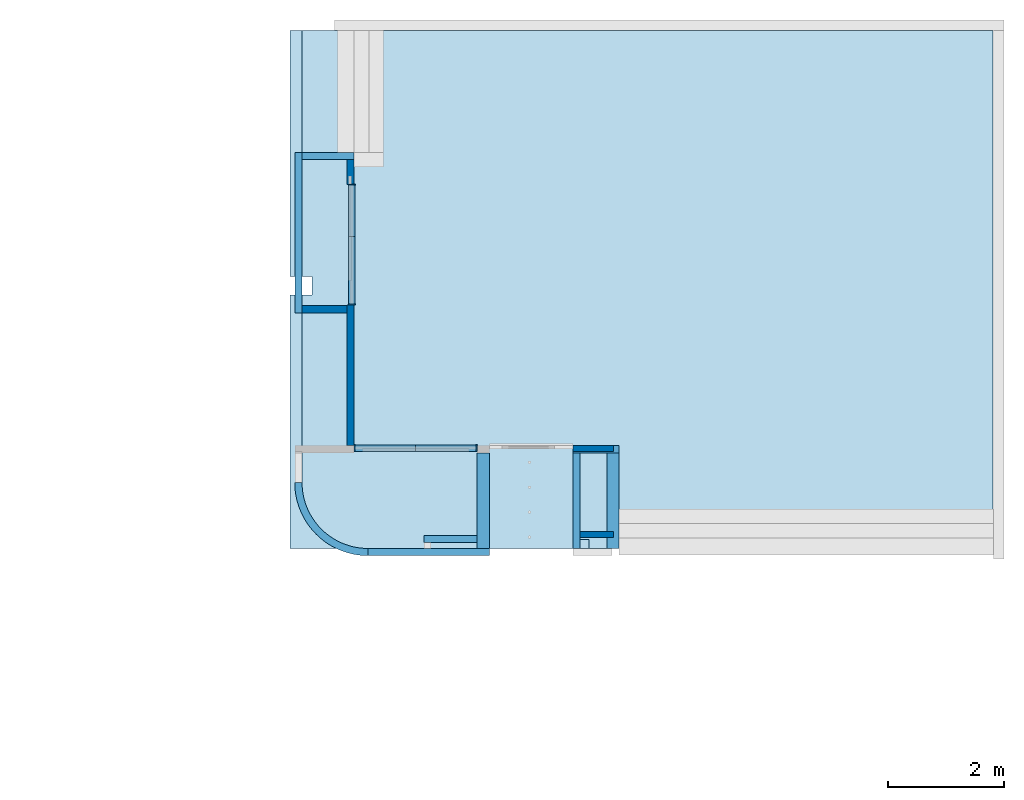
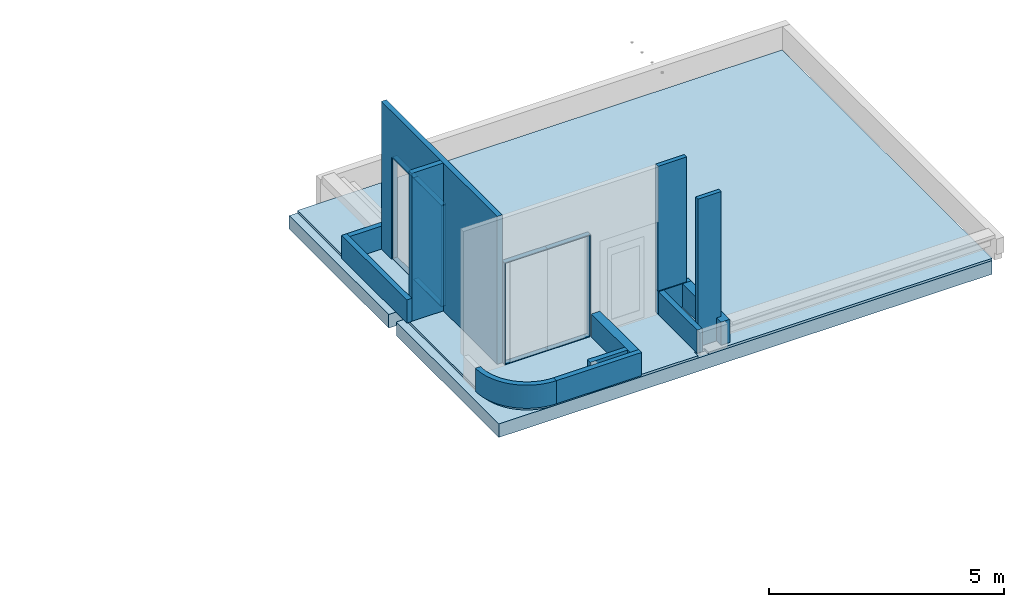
# One storey, part 1 of 6: 13 walls, 12 members, 2 slabs, 1 opening, 2 elements without a shape of their own.
"""IFC2X3 building model written with IfcOpenShell, lengths in millimetres."""

from ifc_helpers import new_model, entity, si_unit, converted_unit, derived_unit, direction, frame, frame_2d, origin, origin_2d_with_axis, place, context, subcontext, project, spatial, polyline, circle_curve, parameter, trimmed, segment, composite_curve, rectangle, outline, extrude, source, transform, mapped, material, layer, layer_set, layer_usage, type_object, type_shapes, element, aggregate, save


model = new_model("IFC2X3")

# Units and contexts
model_context = context("Model", 3, precision=0.01, world=origin(), true_north=direction((6.123031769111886e-17, 1.0)))
body_context = subcontext(model_context, "Body", "Model", "MODEL_VIEW")
ifc_project = project(units=[si_unit("LENGTHUNIT", "METRE", prefix="MILLI"), si_unit("AREAUNIT", "SQUARE_METRE"), si_unit("VOLUMEUNIT", "CUBIC_METRE"), converted_unit("PLANEANGLEUNIT", "DEGREE", entity("IfcRatioMeasure", 0.017453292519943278), si_unit("PLANEANGLEUNIT", "RADIAN"), dimensions=[0, 0, 0, 0, 0, 0, 0]), si_unit("MASSUNIT", "GRAM", prefix="KILO"), derived_unit("MASSDENSITYUNIT", [(si_unit("MASSUNIT", "GRAM", prefix="KILO"), 1), (si_unit("LENGTHUNIT", "METRE"), -3)]), derived_unit("IONCONCENTRATIONUNIT", [(si_unit("MASSUNIT", "GRAM", prefix="KILO"), 1), (si_unit("LENGTHUNIT", "METRE"), -3)]), derived_unit("MOMENTOFINERTIAUNIT", [(si_unit("LENGTHUNIT", "METRE"), 4)]), si_unit("TIMEUNIT", "SECOND"), si_unit("FREQUENCYUNIT", "HERTZ"), si_unit("THERMODYNAMICTEMPERATUREUNIT", "DEGREE_CELSIUS"), derived_unit("THERMALTRANSMITTANCEUNIT", [(si_unit("MASSUNIT", "GRAM", prefix="KILO"), 1), (si_unit("THERMODYNAMICTEMPERATUREUNIT", "KELVIN"), -1), (si_unit("TIMEUNIT", "SECOND"), -3)]), derived_unit("THERMALCONDUCTANCEUNIT", [(si_unit("MASSUNIT", "GRAM", prefix="KILO"), 1), (si_unit("THERMODYNAMICTEMPERATUREUNIT", "KELVIN"), -1), (si_unit("TIMEUNIT", "SECOND"), -3), (si_unit("LENGTHUNIT", "METRE"), 1)]), derived_unit("VOLUMETRICFLOWRATEUNIT", [(si_unit("LENGTHUNIT", "METRE"), 3), (si_unit("TIMEUNIT", "SECOND"), -1)]), derived_unit("MASSFLOWRATEUNIT", [(si_unit("MASSUNIT", "GRAM", prefix="KILO"), 1), (si_unit("TIMEUNIT", "SECOND"), -1)]), derived_unit("ROTATIONALFREQUENCYUNIT", [(si_unit("TIMEUNIT", "SECOND"), -1)]), si_unit("ELECTRICCURRENTUNIT", "AMPERE"), si_unit("ELECTRICVOLTAGEUNIT", "VOLT"), si_unit("POWERUNIT", "WATT"), si_unit("FORCEUNIT", "NEWTON", prefix="KILO"), si_unit("ILLUMINANCEUNIT", "LUX"), si_unit("LUMINOUSFLUXUNIT", "LUMEN"), si_unit("LUMINOUSINTENSITYUNIT", "CANDELA"), derived_unit("USERDEFINED", [(si_unit("MASSUNIT", "GRAM", prefix="KILO"), -1), (si_unit("LENGTHUNIT", "METRE"), -2), (si_unit("TIMEUNIT", "SECOND"), 3), (si_unit("LUMINOUSFLUXUNIT", "LUMEN"), 1)]), derived_unit("USERDEFINED", [(si_unit("MASSUNIT", "GRAM", prefix="KILO"), 1), (si_unit("TIMEUNIT", "SECOND"), -3), (si_unit("LENGTHUNIT", "METRE"), 3), (si_unit("ELECTRICCURRENTUNIT", "AMPERE"), -2)]), derived_unit("SOUNDPOWERUNIT", [(si_unit("MASSUNIT", "GRAM", prefix="KILO"), 1), (si_unit("TIMEUNIT", "SECOND"), -3), (si_unit("LENGTHUNIT", "METRE"), 2)]), derived_unit("SOUNDPRESSUREUNIT", [(si_unit("MASSUNIT", "GRAM", prefix="KILO"), 1), (si_unit("LENGTHUNIT", "METRE"), -1), (si_unit("TIMEUNIT", "SECOND"), -2)]), derived_unit("LINEARVELOCITYUNIT", [(si_unit("LENGTHUNIT", "METRE"), 1), (si_unit("TIMEUNIT", "SECOND"), -1)]), si_unit("PRESSUREUNIT", "PASCAL"), derived_unit("USERDEFINED", [(si_unit("MASSUNIT", "GRAM", prefix="KILO"), 1), (si_unit("LENGTHUNIT", "METRE"), -2), (si_unit("TIMEUNIT", "SECOND"), -2)]), derived_unit("LINEARFORCEUNIT", [(si_unit("MASSUNIT", "GRAM", prefix="KILO"), 1), (si_unit("TIMEUNIT", "SECOND"), -2)]), derived_unit("PLANARFORCEUNIT", [(si_unit("MASSUNIT", "GRAM", prefix="KILO"), 1), (si_unit("LENGTHUNIT", "METRE"), -1), (si_unit("TIMEUNIT", "SECOND"), -2)]), derived_unit("SPECIFICHEATCAPACITYUNIT", [(si_unit("THERMODYNAMICTEMPERATUREUNIT", "KELVIN"), -1), (si_unit("LENGTHUNIT", "METRE"), 2), (si_unit("TIMEUNIT", "SECOND"), -2)]), derived_unit("HEATINGVALUEUNIT", [(si_unit("LENGTHUNIT", "METRE"), 2), (si_unit("TIMEUNIT", "SECOND"), -2)]), derived_unit("VAPORPERMEABILITYUNIT", [(si_unit("LENGTHUNIT", "METRE"), -1), (si_unit("TIMEUNIT", "SECOND"), 1)]), derived_unit("DYNAMICVISCOSITYUNIT", [(si_unit("MASSUNIT", "GRAM", prefix="KILO"), 1), (si_unit("TIMEUNIT", "SECOND"), -1), (si_unit("LENGTHUNIT", "METRE"), -1)]), derived_unit("THERMALEXPANSIONCOEFFICIENTUNIT", [(si_unit("THERMODYNAMICTEMPERATUREUNIT", "KELVIN"), -1)]), derived_unit("MODULUSOFELASTICITYUNIT", [(si_unit("MASSUNIT", "GRAM", prefix="KILO"), 1), (si_unit("LENGTHUNIT", "METRE"), -1), (si_unit("TIMEUNIT", "SECOND"), -2)]), derived_unit("ISOTHERMALMOISTURECAPACITYUNIT", [(si_unit("LENGTHUNIT", "METRE"), 3), (si_unit("MASSUNIT", "GRAM", prefix="KILO"), -1)]), derived_unit("MOISTUREDIFFUSIVITYUNIT", [(si_unit("TIMEUNIT", "SECOND"), -1), (si_unit("LENGTHUNIT", "METRE"), 2)])], contexts=[model_context])

# Site, building, storey
site_placement = place(None, frame((0.0, 300.0, 0.0)))
site = spatial("IfcSite", under=ifc_project, at=site_placement, Name="<Kadastrale nummers>", CompositionType="ELEMENT")
building_placement = place(site_placement, origin())
building = spatial("IfcBuilding", under=site, at=building_placement, CompositionType="ELEMENT")
storey_placement = place(building_placement, frame((0.0, 0.0, -600.0)))
storey = spatial("IfcBuildingStorey", under=building, at=storey_placement, Name="-1 Speelvloer", CompositionType="ELEMENT", Elevation=-599.9999999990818)

# Curtain wall, members
curtain_wall_type_1 = type_object("IfcCurtainWallType", Name="Curtain Wall:Merk H22", PredefinedType="NOTDEFINED")
curtain_wall_1_placement = place(storey_placement, frame((0.0, 0.0, 600.0)))
curtain_wall_1 = element("IfcCurtainWall", 1, at=curtain_wall_1_placement, inside=storey, type_object=curtain_wall_type_1, Name="Curtain Wall:Merk H22", ObjectType="Curtain Wall:Merk H22")
ifc_material_1 = material(Name="ISR_Kunststof_grijs")
member_type_1 = type_object("IfcMemberType", Name="Rectangular Mullion:31_CWM_020x114", PredefinedType="MULLION", material=ifc_material_1)
shared_shape_1 = source(origin(), body_context, "Body", "SweptSolid", [
    extrude(rectangle(XDim=113.99999999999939, YDim=20.0, at=origin_2d_with_axis()), frame((-10.0, 57.0, -900.0), z_axis=(0.0, 0.0, 1.0), x_axis=(0.0, -1.0, 0.0)), (0.0, 0.0, 1.0), 900.0000000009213),
])
type_shapes(member_type_1, [shared_shape_1])
member_1_placement = place(curtain_wall_1_placement, frame((37386.03993788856, 47050.0, 2050.0), z_axis=(0.0, 1.0, 0.0), x_axis=(0.0, 0.0, 1.0)))
member_1 = element("IfcMember", 2, at=member_1_placement, type_object=member_type_1, material=ifc_material_1, Name="Rectangular Mullion:31_CWM_020x114", ObjectType="Rectangular Mullion:31_CWM_020x114", context=body_context, shape_type="MappedRepresentation", body=[
    mapped(shared_shape_1, transform((0.0, 0.0, 0.0), scale=1.0)),
])
member_type_2 = type_object("IfcMemberType", Name="Rectangular Mullion:31_CWM_020x114", PredefinedType="MULLION", material=ifc_material_1)
shared_shape_2 = source(origin(), body_context, "Body", "SweptSolid", [
    extrude(rectangle(XDim=113.99999999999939, YDim=20.0, at=origin_2d_with_axis()), frame((-10.0, 57.0, -1180.0), z_axis=(0.0, 0.0, 1.0), x_axis=(0.0, -1.0, 0.0)), (0.0, 0.0, 1.0), 1180.0000000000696),
])
type_shapes(member_type_2, [shared_shape_2])
member_2_placement = place(curtain_wall_1_placement, frame((37386.03993788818, 44970.0, -600.0), z_axis=(0.0, -1.0, 0.0), x_axis=(0.0, 0.0, -1.0)))
member_2 = element("IfcMember", 3, at=member_2_placement, type_object=member_type_2, material=ifc_material_1, Name="Rectangular Mullion:31_CWM_020x114", ObjectType="Rectangular Mullion:31_CWM_020x114", context=body_context, shape_type="MappedRepresentation", body=[
    mapped(shared_shape_2, transform((0.0, 0.0, 0.0), scale=1.0)),
])
member_type_3 = type_object("IfcMemberType", Name="Rectangular Mullion:31_CWM_020x114", PredefinedType="MULLION", material=ifc_material_1)
shared_shape_3 = source(origin(), body_context, "Body", "SweptSolid", [
    extrude(rectangle(XDim=113.99999999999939, YDim=20.0, at=origin_2d_with_axis()), frame((-10.0, 57.0, -2610.0), z_axis=(0.0, 0.0, 1.0), x_axis=(0.0, -1.0, 0.0)), (0.0, 0.0, 1.0), 2610.0000000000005),
])
type_shapes(member_type_3, [shared_shape_3])
member_3_placement = place(curtain_wall_1_placement, frame((37386.03993788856, 47050.0, -580.0), z_axis=(0.0, 0.0, -1.0), x_axis=(0.0, 1.0, 0.0)))
member_3 = element("IfcMember", 4, at=member_3_placement, type_object=member_type_3, material=ifc_material_1, Name="Rectangular Mullion:31_CWM_020x114", ObjectType="Rectangular Mullion:31_CWM_020x114", context=body_context, shape_type="MappedRepresentation", body=[
    mapped(shared_shape_3, transform((0.0, 0.0, 0.0), scale=1.0)),
])
member_type_4 = type_object("IfcMemberType", Name="Rectangular Mullion:31_CWM_020x114", PredefinedType="MULLION", material=ifc_material_1)
shared_shape_4 = source(origin(), body_context, "Body", "SweptSolid", [
    extrude(rectangle(XDim=113.99999999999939, YDim=20.0, at=origin_2d_with_axis()), frame((-10.0, 57.0, -2610.0), z_axis=(0.0, 0.0, 1.0), x_axis=(0.0, -1.0, 0.0)), (0.0, 0.0, 1.0), 2610.0),
])
type_shapes(member_type_4, [shared_shape_4])
member_4_placement = place(curtain_wall_1_placement, frame((37386.03993788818, 44970.0, 2030.0), z_axis=(0.0, 0.0, 1.0), x_axis=(0.0, -1.0, 0.0)))
member_4 = element("IfcMember", 5, at=member_4_placement, type_object=member_type_4, material=ifc_material_1, Name="Rectangular Mullion:31_CWM_020x114", ObjectType="Rectangular Mullion:31_CWM_020x114", context=body_context, shape_type="MappedRepresentation", body=[
    mapped(shared_shape_4, transform((0.0, 0.0, 0.0), scale=1.0)),
])
member_type_5 = type_object("IfcMemberType", Name="Rectangular Mullion:31_CWM_020x114", PredefinedType="MULLION", material=ifc_material_1)
shared_shape_5 = source(origin(), body_context, "Body", "SweptSolid", [
    extrude(rectangle(XDim=113.99999999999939, YDim=20.0, at=origin_2d_with_axis()), frame((-10.0, 57.0, -1180.0), z_axis=(0.0, 0.0, 1.0), x_axis=(0.0, -1.0, 0.0)), (0.0, 0.0, 1.0), 1180.0000000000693),
])
type_shapes(member_type_5, [shared_shape_5])
member_5_placement = place(curtain_wall_1_placement, frame((37386.039937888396, 46150.0, 2050.0), z_axis=(0.0, 1.0, 0.0), x_axis=(0.0, 0.0, 1.0)))
member_5 = element("IfcMember", 6, at=member_5_placement, type_object=member_type_5, material=ifc_material_1, Name="Rectangular Mullion:31_CWM_020x114", ObjectType="Rectangular Mullion:31_CWM_020x114", context=body_context, shape_type="MappedRepresentation", body=[
    mapped(shared_shape_5, transform((0.0, 0.0, 0.0), scale=1.0)),
])
member_type_6 = type_object("IfcMemberType", Name="Rectangular Mullion:31_CWM_020x114", PredefinedType="MULLION", material=ifc_material_1)
shared_shape_6 = source(origin(), body_context, "Body", "SweptSolid", [
    extrude(rectangle(XDim=113.99999999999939, YDim=20.0, at=origin_2d_with_axis()), frame((-10.0, 57.0, -900.0), z_axis=(0.0, 0.0, 1.0), x_axis=(0.0, -1.0, 0.0)), (0.0, 0.0, 1.0), 900.0000000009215),
])
type_shapes(member_type_6, [shared_shape_6])
member_6_placement = place(curtain_wall_1_placement, frame((37386.039937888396, 46150.0, -600.0), z_axis=(0.0, -1.0, 0.0), x_axis=(0.0, 0.0, -1.0)))
member_6 = element("IfcMember", 7, at=member_6_placement, type_object=member_type_6, material=ifc_material_1, Name="Rectangular Mullion:31_CWM_020x114", ObjectType="Rectangular Mullion:31_CWM_020x114", context=body_context, shape_type="MappedRepresentation", body=[
    mapped(shared_shape_6, transform((0.0, 0.0, 0.0), scale=1.0)),
])
aggregate(curtain_wall_1, [member_1, member_2, member_3, member_4, member_5, member_6])

curtain_wall_type_2 = type_object("IfcCurtainWallType", Name="Curtain Wall:Merk H23", PredefinedType="NOTDEFINED")
curtain_wall_2_placement = place(storey_placement, frame((0.0, 0.0, 600.0)))
curtain_wall_2 = element("IfcCurtainWall", 8, at=curtain_wall_2_placement, inside=storey, type_object=curtain_wall_type_2, Name="Curtain Wall:Merk H23", ObjectType="Curtain Wall:Merk H23")
member_type_7 = type_object("IfcMemberType", Name="Rectangular Mullion:31_CWM_020x114", PredefinedType="MULLION", material=ifc_material_1)
shared_shape_7 = source(origin(), body_context, "Body", "SweptSolid", [
    extrude(rectangle(XDim=113.99999999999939, YDim=20.0, at=origin_2d_with_axis()), frame((-10.0, -57.0, -1057.959848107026), z_axis=(0.0, 0.0, 1.0), x_axis=(0.0, -1.0, 0.0)), (0.0, 0.0, 1.0), 1057.9598481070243),
])
type_shapes(member_type_7, [shared_shape_7])
member_7_placement = place(curtain_wall_2_placement, frame((39599.99978599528, 42446.0, 2050.0), z_axis=(1.0, 0.0, 0.0), x_axis=(0.0, 0.0, 1.0)))
member_7 = element("IfcMember", 9, at=member_7_placement, type_object=member_type_7, material=ifc_material_1, Name="Rectangular Mullion:31_CWM_020x114", ObjectType="Rectangular Mullion:31_CWM_020x114", context=body_context, shape_type="MappedRepresentation", body=[
    mapped(shared_shape_7, transform((0.0, 0.0, 0.0), scale=1.0)),
])
member_type_8 = type_object("IfcMemberType", Name="Rectangular Mullion:31_CWM_020x114", PredefinedType="MULLION", material=ifc_material_1)
shared_shape_8 = source(origin(), body_context, "Body", "SweptSolid", [
    extrude(rectangle(XDim=113.99999999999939, YDim=20.0, at=origin_2d_with_axis()), frame((-10.0, -57.0, -1057.0), z_axis=(0.0, 0.0, 1.0), x_axis=(0.0, -1.0, 0.0)), (0.0, 0.0, 1.0), 1056.999999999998),
])
type_shapes(member_type_8, [shared_shape_8])
member_8_placement = place(curtain_wall_2_placement, frame((37485.03993788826, 42446.0, -600.0), z_axis=(-1.0, 0.0, 0.0), x_axis=(0.0, 0.0, -1.0)))
member_8 = element("IfcMember", 10, at=member_8_placement, type_object=member_type_8, material=ifc_material_1, Name="Rectangular Mullion:31_CWM_020x114", ObjectType="Rectangular Mullion:31_CWM_020x114", context=body_context, shape_type="MappedRepresentation", body=[
    mapped(shared_shape_8, transform((0.0, 0.0, 0.0), scale=1.0)),
])
member_type_9 = type_object("IfcMemberType", Name="Rectangular Mullion:31_CWM_020x114", PredefinedType="MULLION", material=ifc_material_1)
shared_shape_9 = source(origin(), body_context, "Body", "SweptSolid", [
    extrude(rectangle(XDim=113.99999999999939, YDim=20.0, at=origin_2d_with_axis()), frame((-10.0, -57.0, -2610.0), z_axis=(0.0, 0.0, 1.0), x_axis=(0.0, -1.0, 0.0)), (0.0, 0.0, 1.0), 2610.0000000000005),
])
type_shapes(member_type_9, [shared_shape_9])
member_9_placement = place(curtain_wall_2_placement, frame((39599.99978599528, 42446.0, -580.0), z_axis=(0.0, 0.0, -1.0), x_axis=(1.0, 0.0, 0.0)))
member_9 = element("IfcMember", 11, at=member_9_placement, type_object=member_type_9, material=ifc_material_1, Name="Rectangular Mullion:31_CWM_020x114", ObjectType="Rectangular Mullion:31_CWM_020x114", context=body_context, shape_type="MappedRepresentation", body=[
    mapped(shared_shape_9, transform((0.0, 0.0, 0.0), scale=1.0)),
])
member_type_10 = type_object("IfcMemberType", Name="Rectangular Mullion:31_CWM_020x114", PredefinedType="MULLION", material=ifc_material_1)
shared_shape_10 = source(origin(), body_context, "Body", "SweptSolid", [
    extrude(rectangle(XDim=113.99999999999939, YDim=20.0, at=origin_2d_with_axis()), frame((-10.0, -57.0, -2610.0), z_axis=(0.0, 0.0, 1.0), x_axis=(0.0, -1.0, 0.0)), (0.0, 0.0, 1.0), 2610.0),
])
type_shapes(member_type_10, [shared_shape_10])
member_10_placement = place(curtain_wall_2_placement, frame((37485.03993788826, 42446.0, 2030.0), z_axis=(0.0, 0.0, 1.0), x_axis=(-1.0, 0.0, 0.0)))
member_10 = element("IfcMember", 12, at=member_10_placement, type_object=member_type_10, material=ifc_material_1, Name="Rectangular Mullion:31_CWM_020x114", ObjectType="Rectangular Mullion:31_CWM_020x114", context=body_context, shape_type="MappedRepresentation", body=[
    mapped(shared_shape_10, transform((0.0, 0.0, 0.0), scale=1.0)),
])
member_type_11 = type_object("IfcMemberType", Name="Rectangular Mullion:31_CWM_020x114", PredefinedType="MULLION", material=ifc_material_1)
shared_shape_11 = source(origin(), body_context, "Body", "SweptSolid", [
    extrude(rectangle(XDim=113.99999999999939, YDim=20.0, at=origin_2d_with_axis()), frame((-10.0, -57.0, -1057.0), z_axis=(0.0, 0.0, 1.0), x_axis=(0.0, -1.0, 0.0)), (0.0, 0.0, 1.0), 1056.999999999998),
])
type_shapes(member_type_11, [shared_shape_11])
member_11_placement = place(curtain_wall_2_placement, frame((38542.03993788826, 42446.0, 2050.0), z_axis=(1.0, 0.0, 0.0), x_axis=(0.0, 0.0, 1.0)))
member_11 = element("IfcMember", 13, at=member_11_placement, type_object=member_type_11, material=ifc_material_1, Name="Rectangular Mullion:31_CWM_020x114", ObjectType="Rectangular Mullion:31_CWM_020x114", context=body_context, shape_type="MappedRepresentation", body=[
    mapped(shared_shape_11, transform((0.0, 0.0, 0.0), scale=1.0)),
])
member_type_12 = type_object("IfcMemberType", Name="Rectangular Mullion:31_CWM_020x114", PredefinedType="MULLION", material=ifc_material_1)
shared_shape_12 = source(origin(), body_context, "Body", "SweptSolid", [
    extrude(rectangle(XDim=113.99999999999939, YDim=20.0, at=origin_2d_with_axis()), frame((-10.0, -57.0, -1057.9598481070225), z_axis=(0.0, 0.0, 1.0), x_axis=(0.0, -1.0, 0.0)), (0.0, 0.0, 1.0), 1057.9598481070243),
])
type_shapes(member_type_12, [shared_shape_12])
member_12_placement = place(curtain_wall_2_placement, frame((38542.03993788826, 42446.0, -600.0), z_axis=(-1.0, 0.0, 0.0), x_axis=(0.0, 0.0, -1.0)))
member_12 = element("IfcMember", 14, at=member_12_placement, type_object=member_type_12, material=ifc_material_1, Name="Rectangular Mullion:31_CWM_020x114", ObjectType="Rectangular Mullion:31_CWM_020x114", context=body_context, shape_type="MappedRepresentation", body=[
    mapped(shared_shape_12, transform((0.0, 0.0, 0.0), scale=1.0)),
])
aggregate(curtain_wall_2, [member_7, member_8, member_9, member_10, member_11, member_12])

# Slabs
ifc_material_2 = material(Name="ISR_Beton ihwg")
ifc_layer_1 = layer(ifc_material_2, 60.0)
ifc_layer_set_1 = layer_set([ifc_layer_1], Name="Floor:23_Gewapende Druklaag")
ifc_layer_usage_1 = layer_usage(ifc_layer_set_1, "AXIS3", "POSITIVE", 0.0)
slab_type_1 = type_object("IfcSlabType", Name="Floor:23_Gewapende Druklaag", PredefinedType="FLOOR", material=ifc_layer_set_1)
slab_1_placement = place(storey_placement, origin())
element("IfcSlab", 15, at=slab_1_placement, inside=storey, type_object=slab_type_1, material=ifc_layer_usage_1, Name="Floor:23_Gewapende Druklaag", ObjectType="Floor:23_Gewapende Druklaag", PredefinedType="FLOOR", context=body_context, shape_type="SweptSolid", body=[
    extrude(outline(composite_curve([segment(polyline([(-3412.2957542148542, 1693.7501876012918), (-3412.295754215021, -1533.7503376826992)]), True, "CONTINUOUS"), segment(trimmed(circle_curve(frame_2d((-2274.795754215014, -1533.7503376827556), x_axis=(0.0, -1.0)), 1137.5000000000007), [parameter(270.0000000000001)], [parameter(0.0)], True, "PARAMETER"), True, "CONTINUOUS"), segment(polyline([(-2274.795754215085, -2671.2503376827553), (-197.33569210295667, -2671.250337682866)]), True, "CONTINUOUS"), segment(polyline([(-197.33569210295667, -2671.249812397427), (1272.664307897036, -2671.2498123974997)]), True, "CONTINUOUS"), segment(polyline([(1272.664307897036, -2671.2498123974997), (1272.6643078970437, -2516.2503376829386)]), True, "CONTINUOUS"), segment(polyline([(1272.6643078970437, -2516.2503376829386), (1532.6643078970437, -2516.2503376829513)]), True, "CONTINUOUS"), segment(polyline([(1532.6643078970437, -2516.2503376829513), (1532.664307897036, -2671.2498123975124)]), True, "CONTINUOUS"), segment(polyline([(1532.664307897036, -2671.2498123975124), (8492.66430789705, -2671.249812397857)]), True, "CONTINUOUS"), segment(polyline([(8492.66430789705, -2671.249812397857), (8492.664307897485, 6253.750187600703)]), True, "CONTINUOUS"), segment(polyline([(8492.664307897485, 6253.750187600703), (-3412.2957542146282, 6253.750187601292)]), True, "CONTINUOUS"), segment(polyline([(-3412.2957542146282, 6253.750187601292), (-3412.2957542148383, 2013.7501876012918)]), True, "CONTINUOUS"), segment(polyline([(-3412.2957542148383, 2013.7501876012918), (-3237.3356921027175, 2013.7501876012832)]), True, "CONTINUOUS"), segment(polyline([(-3237.3356921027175, 2013.7501876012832), (-3237.335692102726, 1693.7501876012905)]), True, "CONTINUOUS"), segment(polyline([(-3237.335692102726, 1693.7501876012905), (-3412.2957542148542, 1693.7501876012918)]), True, "CONTINUOUS")], self_intersect=False)), frame((39997.3356921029, 43446.24981239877, -70.0)), (0.0, 0.0, -1.0), 60.00000000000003),
])
ifc_material_3 = material(Name="ISR_Kanaalplaatvloer")
ifc_layer_2 = layer(ifc_material_3, 200.0)
ifc_material_4 = material(Name="ISR_Dak_isolatie(198)")
ifc_layer_3 = layer(ifc_material_4, 152.0)
ifc_layer_set_2 = layer_set([ifc_layer_2, ifc_layer_3], Name="Floor:23_Geisoleerde kanaalplaatvloer_200")
ifc_layer_usage_2 = layer_usage(ifc_layer_set_2, "AXIS3", "POSITIVE", 0.0)
slab_type_2 = type_object("IfcSlabType", Name="Floor:23_Geisoleerde kanaalplaatvloer_200", PredefinedType="FLOOR", material=ifc_layer_set_2)
slab_2_placement = place(storey_placement, origin())
element("IfcSlab", 16, at=slab_2_placement, inside=storey, type_object=slab_type_2, material=ifc_layer_usage_2, Name="Floor:23_Geisoleerde kanaalplaatvloer_200", ObjectType="Floor:23_Geisoleerde kanaalplaatvloer_200", PredefinedType="FLOOR", context=body_context, shape_type="SweptSolid", body=[
    extrude(outline(polyline([(-3122.480031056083, -127.50000000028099), (-3122.4800310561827, -4492.4999999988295), (8987.480031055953, -4492.499999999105), (8987.480031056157, 4427.49999999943), (-3122.480031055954, 4427.499999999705), (-3122.4800310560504, 192.49999999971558), (-2742.5199689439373, 192.49999999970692), (-2742.51996894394, -127.50000000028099), (-3122.480031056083, -127.50000000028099)])), frame((39502.51996894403, 45267.50000000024, -130.0)), (0.0, 0.0, -1.0), 352.0),
])

# Wall
ifc_material_5 = material(Name="ISR_Gips")
ifc_layer_4 = layer(ifc_material_5, 1.0)
ifc_material_6 = material(Name="ISR_Binnenwand")
ifc_layer_5 = layer(ifc_material_6, 123.0)
ifc_layer_6 = layer(ifc_material_5, 1.0)
ifc_layer_set_3 = layer_set([ifc_layer_4, ifc_layer_5, ifc_layer_6], Name="Basic Wall:22_DAT_binnenwand_125")
ifc_layer_usage_3 = layer_usage(ifc_layer_set_3, "AXIS2", "NEGATIVE", 62.50000000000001)
wall_type_1 = type_object("IfcWallType", Name="Basic Wall:22_DAT_binnenwand_125", PredefinedType="STANDARD", material=ifc_layer_set_3)
wall_1_placement = place(storey_placement, frame((36585.03993788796, 44897.4999999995, 0.0)))
element("IfcWallStandardCase", 17, at=wall_1_placement, inside=storey, type_object=wall_type_1, material=ifc_layer_usage_3, Name="Basic Wall:22_DAT_binnenwand_125", ObjectType="Basic Wall:22_DAT_binnenwand_125", context=body_context, shape_type="SweptSolid", body=[
    extrude(rectangle(XDim=775.0000000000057, YDim=125.00000000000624, at=frame_2d((387.50000000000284, 0.0), x_axis=(-1.0, 0.0))), origin(), (0.0, 0.0, 1.0), 3840.0000290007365),
])

# Wall, opening
wall_2_placement = place(storey_placement, frame((37422.53993788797, 47475.0, 0.0), z_axis=(0.0, 0.0, 1.0), x_axis=(0.0, -1.0, 0.0)))
wall_2 = element("IfcWallStandardCase", 18, at=wall_2_placement, inside=storey, type_object=wall_type_1, material=ifc_layer_usage_3, Name="Basic Wall:22_DAT_binnenwand_125", ObjectType="Basic Wall:22_DAT_binnenwand_125", context=body_context, shape_type="SweptSolid", body=[
    extrude(rectangle(XDim=4930.0000000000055, YDim=125.0000000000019, at=frame_2d((2465.0000000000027, -2.8599345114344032e-12), x_axis=(1.0, 0.0))), origin(), (0.0, 0.0, 1.0), 3840.0000290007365),
])
opening_placement = place(wall_2_placement, origin())
element("IfcOpeningElement", 19, at=opening_placement, cuts=wall_2, Name="Basic Wall:22_DAT_binnenwand_125", ObjectType="Opening", context=body_context, shape_type="SweptSolid", body=[
    extrude(rectangle(XDim=2649.9999999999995, YDim=2080.0000000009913, at=frame_2d((4.320099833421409e-12, 0.0), x_axis=(0.0, 1.0))), frame((1465.0, -214.90000000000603, 1325.0), z_axis=(0.0, 1.0, 0.0), x_axis=(-1.0, 0.0, 0.0)), (0.0, 0.0, 1.0), 429.8000000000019),
])

# Walls
wall_3_placement = place(storey_placement, frame((37722.539937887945, 40712.4994747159, 0.0)))
element("IfcWallStandardCase", 20, at=wall_3_placement, inside=storey, type_object=wall_type_1, material=ifc_layer_usage_3, Name="Basic Wall:22_DAT_binnenwand_125", ObjectType="Basic Wall:22_DAT_binnenwand_125", context=body_context, shape_type="SweptSolid", body=[
    extrude(rectangle(XDim=2091.459848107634, YDim=125.00000000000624, at=frame_2d((1045.729924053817, 0.0), x_axis=(-1.0, 0.0))), origin(), (0.0, 0.0, 1.0), 600.0000000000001),
])
wall_4_placement = place(storey_placement, frame((42050.0, 42482.499999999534, 0.0), z_axis=(0.0, 0.0, 1.0), x_axis=(-1.0, 0.0, 0.0)))
element("IfcWallStandardCase", 21, at=wall_4_placement, inside=storey, type_object=wall_type_1, material=ifc_layer_usage_3, Name="Basic Wall:22_DAT_binnenwand_125", ObjectType="Basic Wall:22_DAT_binnenwand_125", context=body_context, shape_type="SweptSolid", body=[
    extrude(rectangle(XDim=800.0, YDim=125.00000000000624, at=frame_2d((400.0, 0.0), x_axis=(-1.0, 0.0))), origin(), (0.0, 0.0, 1.0), 600.0000000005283),
])
wall_5_placement = place(storey_placement, frame((36522.53993788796, 41912.4994747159, 0.0)))
element("IfcWallStandardCase", 22, at=wall_5_placement, inside=storey, type_object=wall_type_1, material=ifc_layer_usage_3, Name="Basic Wall:22_DAT_binnenwand_125", ObjectType="Basic Wall:22_DAT_binnenwand_125", context=body_context, shape_type="SweptSolid", body=[
    extrude(outline(composite_curve([segment(trimmed(circle_curve(frame_2d((1200.0, 0.0), x_axis=(1.0, 0.0)), 1137.5), [parameter(180.00000000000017)], [parameter(269.9999999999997)], True, "PARAMETER"), False, "CONTINUOUS"), segment(polyline([(62.499999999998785, 0.0), (-62.499999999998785, 0.0)]), True, "CONTINUOUS"), segment(trimmed(circle_curve(frame_2d((1200.0, 0.0), x_axis=(1.0, 0.0)), 1262.5), [parameter(180.00000000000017)], [parameter(269.9999999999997)], True, "PARAMETER"), True, "CONTINUOUS"), segment(polyline([(1200.0, -1262.4999999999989), (1200.0, -1137.5000000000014)]), True, "CONTINUOUS")], self_intersect=False)), origin(), (0.0, 0.0, 1.0), 600.0000000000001),
])
wall_6_placement = place(storey_placement, frame((41312.500000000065, 40774.99947471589, 0.0), z_axis=(0.0, 0.0, 1.0), x_axis=(0.0, 1.0, 0.0)))
element("IfcWallStandardCase", 23, at=wall_6_placement, inside=storey, type_object=wall_type_1, material=ifc_layer_usage_3, Name="Basic Wall:22_DAT_binnenwand_125", ObjectType="Basic Wall:22_DAT_binnenwand_125", context=body_context, shape_type="SweptSolid", body=[
    extrude(rectangle(XDim=1645.0005252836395, YDim=125.00000000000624, at=frame_2d((822.5002626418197, 0.0), x_axis=(-1.0, 0.0))), origin(), (0.0, 0.0, 1.0), 600.0000000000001),
])
wall_7_placement = place(storey_placement, frame((39599.99978599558, 40937.499474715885, 0.0), z_axis=(0.0, 0.0, 1.0), x_axis=(-1.0, 0.0, 0.0)))
element("IfcWallStandardCase", 24, at=wall_7_placement, inside=storey, type_object=wall_type_1, material=ifc_layer_usage_3, Name="Basic Wall:22_DAT_binnenwand_125", ObjectType="Basic Wall:22_DAT_binnenwand_125", context=body_context, shape_type="SweptSolid", body=[
    extrude(rectangle(XDim=914.9999999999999, YDim=125.00000000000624, at=frame_2d((457.49999999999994, 0.0), x_axis=(-1.0, 0.0))), origin(), (0.0, 0.0, 1.0), 600.0000000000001),
])
wall_8_placement = place(storey_placement, frame((36522.53993788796, 47600.0, 0.0), z_axis=(0.0, 0.0, 1.0), x_axis=(0.0, -1.0, 0.0)))
element("IfcWallStandardCase", 25, at=wall_8_placement, inside=storey, type_object=wall_type_1, material=ifc_layer_usage_3, Name="Basic Wall:22_DAT_binnenwand_125", ObjectType="Basic Wall:22_DAT_binnenwand_125", context=body_context, shape_type="SweptSolid", body=[
    extrude(rectangle(XDim=2767.8749973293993, YDim=124.99999999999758, at=frame_2d((1383.9374986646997, -9.592326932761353e-14), x_axis=(-1.0, 0.0))), origin(), (0.0, 0.0, 1.0), 600.0000000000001),
])
wall_9_placement = place(storey_placement, frame((36585.03993788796, 47537.49999999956, 0.0)))
element("IfcWallStandardCase", 26, at=wall_9_placement, inside=storey, type_object=wall_type_1, material=ifc_layer_usage_3, Name="Basic Wall:22_DAT_binnenwand_125", ObjectType="Basic Wall:22_DAT_binnenwand_125", context=body_context, shape_type="SweptSolid", body=[
    extrude(rectangle(XDim=900.0000000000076, YDim=125.00000000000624, at=frame_2d((450.0000000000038, 0.0), x_axis=(-1.0, 0.0))), origin(), (0.0, 0.0, 1.0), 600.0000000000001),
])
ifc_layer_7 = layer(ifc_material_5, 1.0)
ifc_material_7 = material(Name="ISR_Kalkzandsteen")
ifc_layer_8 = layer(ifc_material_7, 212.0)
ifc_layer_9 = layer(ifc_material_5, 1.0)
ifc_layer_set_4 = layer_set([ifc_layer_7, ifc_layer_8, ifc_layer_9], Name="Basic Wall:28_DAT_kalkzandsteen_214mm")
ifc_layer_usage_4 = layer_usage(ifc_layer_set_4, "AXIS2", "NEGATIVE", 107.0)
wall_type_2 = type_object("IfcWallType", Name="Basic Wall:28_DAT_kalkzandsteen_214mm", PredefinedType="STANDARD", material=ifc_layer_set_4)
wall_10_placement = place(storey_placement, frame((39706.99978599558, 40774.99947471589, 0.0), z_axis=(0.0, 0.0, 1.0), x_axis=(0.0, 1.0, 0.0)))
element("IfcWallStandardCase", 27, at=wall_10_placement, inside=storey, type_object=wall_type_2, material=ifc_layer_usage_4, Name="Basic Wall:28_DAT_kalkzandsteen_214mm", ObjectType="Basic Wall:28_DAT_kalkzandsteen_214mm", context=body_context, shape_type="SweptSolid", body=[
    extrude(rectangle(XDim=1645.0005252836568, YDim=214.00000000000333, at=frame_2d((822.5002626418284, 2.0747847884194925e-12), x_axis=(-1.0, 0.0))), origin(), (0.0, 0.0, 1.0), 600.0000000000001),
])
wall_11_placement = place(storey_placement, frame((41943.0, 40774.999474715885, 0.0), z_axis=(0.0, 0.0, 1.0), x_axis=(0.0, 1.0, 0.0)))
element("IfcWallStandardCase", 28, at=wall_11_placement, inside=storey, type_object=wall_type_2, material=ifc_layer_usage_4, Name="Basic Wall:28_DAT_kalkzandsteen_214mm", ObjectType="Basic Wall:28_DAT_kalkzandsteen_214mm", context=body_context, shape_type="SweptSolid", body=[
    extrude(rectangle(XDim=1645.0005252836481, YDim=214.00000000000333, at=frame_2d((822.5002626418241, 0.0), x_axis=(-1.0, 0.0))), origin(), (0.0, 0.0, 1.0), 600.0000000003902),
])
ifc_layer_10 = layer(ifc_material_6, 100.0)
ifc_layer_set_5 = layer_set([ifc_layer_10], Name="Basic Wall:22_DAT_binnenwand_100")
ifc_layer_usage_5 = layer_usage(ifc_layer_set_5, "AXIS2", "NEGATIVE", 50.0)
wall_type_3 = type_object("IfcWallType", Name="Basic Wall:22_DAT_binnenwand_100", PredefinedType="STANDARD", material=ifc_layer_set_5)
wall_12_placement = place(storey_placement, frame((41950.0, 42495.0, 600.0), z_axis=(0.0, 0.0, 1.0), x_axis=(-1.0, 0.0, 0.0)))
element("IfcWallStandardCase", 29, at=wall_12_placement, inside=storey, type_object=wall_type_3, material=ifc_layer_usage_5, Name="Basic Wall:22_DAT_binnenwand_100", ObjectType="Basic Wall:22_DAT_binnenwand_100", context=body_context, shape_type="SweptSolid", body=[
    extrude(rectangle(XDim=699.9999999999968, YDim=99.99999999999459, at=frame_2d((349.9999999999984, 0.0), x_axis=(-1.0, 0.0))), origin(), (0.0, 0.0, 1.0), 3240.000028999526),
])
wall_13_placement = place(storey_placement, frame((41950.0, 41015.0, 0.0), z_axis=(0.0, 0.0, 1.0), x_axis=(-1.0, 0.0, 0.0)))
element("IfcWallStandardCase", 30, at=wall_13_placement, inside=storey, type_object=wall_type_3, material=ifc_layer_usage_5, Name="Basic Wall:22_DAT_binnenwand_100", ObjectType="Basic Wall:22_DAT_binnenwand_100", context=body_context, shape_type="SweptSolid", body=[
    extrude(rectangle(XDim=574.9999999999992, YDim=99.99999999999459, at=frame_2d((287.4999999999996, 0.0), x_axis=(-1.0, 0.0))), origin(), (0.0, 0.0, 1.0), 3840.0000290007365),
])

save(model, "model.ifc")
